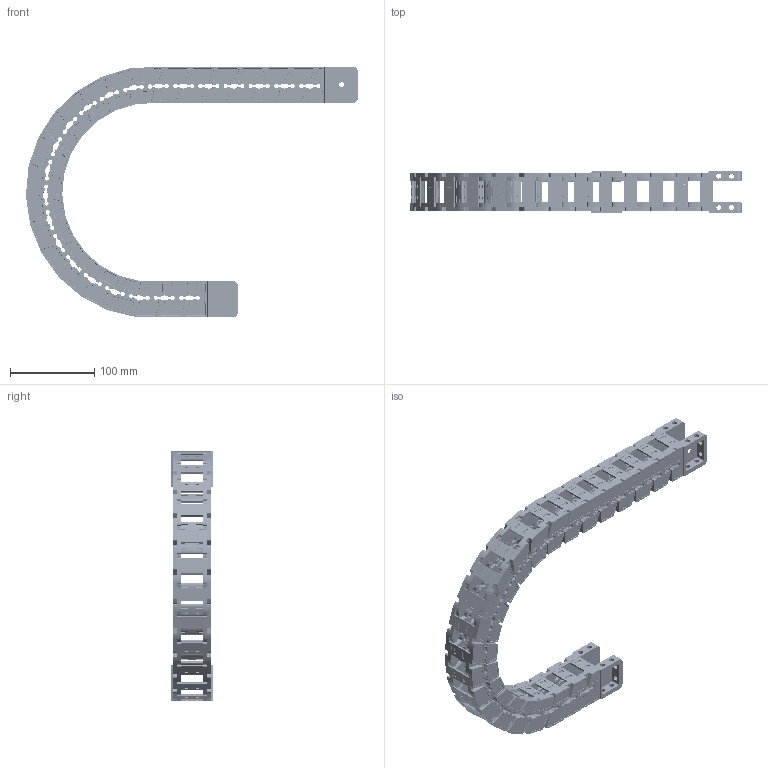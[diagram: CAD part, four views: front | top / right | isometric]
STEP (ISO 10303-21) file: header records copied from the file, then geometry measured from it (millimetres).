
FILE_DESCRIPTION((''),'2;1');
FILE_NAME('JY-35X25-R125_ASM','2025-01-05T19:35:40',('admin'),(''),'CREO PARAMETRIC BY PTC INC, 2021023','CREO PARAMETRIC BY PTC INC, 2021023','');
FILE_SCHEMA(('CONFIG_CONTROL_DESIGN'));
Length unit declared in the file: millimetre
Products named in the file (11): 35XL-L; YP; 35XL-R; ASM0001_ASM; 35-LTT-A-L; 35-LTT-A-R; 35XL-LTT-A_ASM; 35-LTT-B-L; 35-LTT-B-R; 35XL-LTT-B_ASM; JY-35X25-R125_ASM
Assembly tree (35 placements, depth 3):
  JY-35X25-R125_ASM
    ASM0001_ASM  x21
      35XL-L
      YP
      35XL-R
    35XL-LTT-A_ASM
      35-LTT-A-L
      YP  x2
      35-LTT-A-R
    35XL-LTT-B_ASM
      35-LTT-B-L
      YP  x2
      35-LTT-B-R
Bounding box: 395.09 x 49.5 x 298.23 mm (x, y, z)
Volume: 550251.2 mm3; surface area: 317205.9 mm2
Topology: 92 solids, 92 shells, 7504 faces, 22500 edges, 15188 vertices
Faces by surface type: plane 4246, cylinder 2466, cone 484, extrusion 176, bspline 132
Entity records: 27890 total; most frequent: CARTESIAN_POINT 6168, ORIENTED_EDGE 4640, DIRECTION 4365, EDGE_CURVE 2320, VERTEX_POINT 1568, AXIS2_PLACEMENT_3D 1474, VECTOR 1417, LINE 1401
